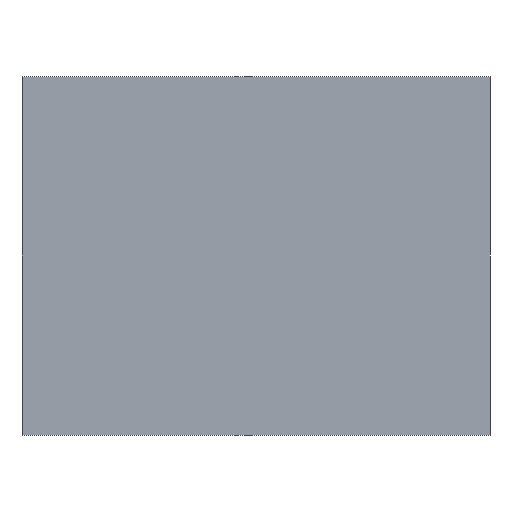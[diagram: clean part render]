
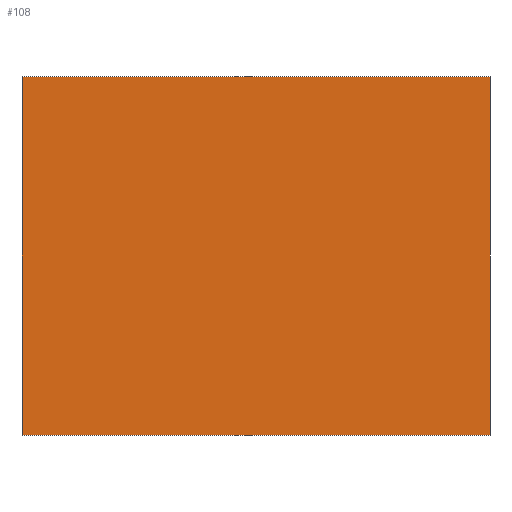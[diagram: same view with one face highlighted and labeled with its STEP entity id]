
A CAD part, front view. The second image highlights one B-rep face of the part: STEP entity #108.
In plain terms, the highlighted planar face has unit normal (0, -1, 0).
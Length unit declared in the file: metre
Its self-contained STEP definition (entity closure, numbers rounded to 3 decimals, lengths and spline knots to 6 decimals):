
#28=ORIENTED_EDGE('',*,*,#39,.T.);
#29=ORIENTED_EDGE('',*,*,#46,.F.);
#30=ORIENTED_EDGE('',*,*,#41,.F.);
#31=ORIENTED_EDGE('',*,*,#47,.T.);
#39=EDGE_CURVE('',#49,#51,#59,.T.);
#41=EDGE_CURVE('',#53,#54,#61,.T.);
#46=EDGE_CURVE('',#54,#51,#66,.T.);
#47=EDGE_CURVE('',#53,#49,#67,.T.);
#49=VERTEX_POINT('',#196);
#51=VERTEX_POINT('',#200);
#53=VERTEX_POINT('',#205);
#54=VERTEX_POINT('',#207);
#59=LINE('',#201,#71);
#61=LINE('',#206,#73);
#66=LINE('',#215,#78);
#67=LINE('',#217,#79);
#71=VECTOR('',#173,1.);
#73=VECTOR('',#177,1.);
#78=VECTOR('',#186,1.);
#79=VECTOR('',#189,1.);
#84=EDGE_LOOP('',(#28,#29,#30,#31));
#90=FACE_BOUND('',#84,.T.);
#96=PLANE('',#164);
#108=ADVANCED_FACE('',(#90),#96,.F.);
#164=AXIS2_PLACEMENT_3D('',#216,#187,#188);
#173=DIRECTION('',(1.,0.,0.));
#177=DIRECTION('',(1.,0.,0.));
#186=DIRECTION('',(0.,0.,-1.));
#187=DIRECTION('',(0.,1.,0.));
#188=DIRECTION('',(-1.,0.,0.));
#189=DIRECTION('',(0.,0.,-1.));
#196=CARTESIAN_POINT('',(0.00125,0.0044,0.0005));
#200=CARTESIAN_POINT('',(0.00155,0.0044,0.0005));
#201=CARTESIAN_POINT('',(0.00155,0.0044,0.0005));
#205=CARTESIAN_POINT('',(0.00125,0.0044,0.00073));
#206=CARTESIAN_POINT('',(0.00155,0.0044,0.00073));
#207=CARTESIAN_POINT('',(0.00155,0.0044,0.00073));
#215=CARTESIAN_POINT('',(0.00155,0.0044,0.00073));
#216=CARTESIAN_POINT('',(0.00155,0.0044,0.00073));
#217=CARTESIAN_POINT('',(0.00125,0.0044,0.00073));
